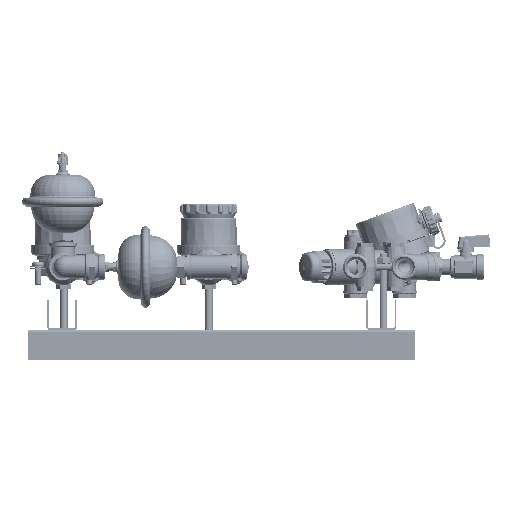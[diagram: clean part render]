
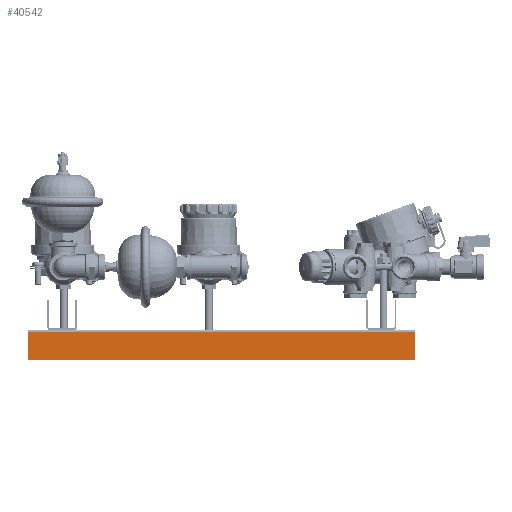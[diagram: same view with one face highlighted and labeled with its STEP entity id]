
A CAD part, front view. The second image highlights one B-rep face of the part: STEP entity #40542.
In plain terms, the highlighted planar face has unit normal (0, -1, 0) as drawn and (1, 0, 0) by its records, which use the part's own axes.
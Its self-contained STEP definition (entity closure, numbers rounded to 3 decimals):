
#40542=ADVANCED_FACE('',(#222634),#222636,.T.);
#222634=FACE_BOUND('',#222635,.T.);
#222635=EDGE_LOOP('',(#327218,#327219,#327220,#327221));
#222636=PLANE('',#222637);
#222637=AXIS2_PLACEMENT_3D('',#222638,#222639,#222640);
#222638=CARTESIAN_POINT('',(15.5,-400.,-2.5));
#222639=DIRECTION('',(1.,0.,0.));
#222640=DIRECTION('',(0.,0.,-1.));
#327218=ORIENTED_EDGE('',*,*,#380372,.T.);
#327219=ORIENTED_EDGE('',*,*,#380400,.T.);
#327220=ORIENTED_EDGE('',*,*,#380390,.F.);
#327221=ORIENTED_EDGE('',*,*,#380397,.F.);
#380372=EDGE_CURVE('',#448742,#448739,#448743,.T.);
#380390=EDGE_CURVE('',#448771,#448773,#448774,.T.);
#380397=EDGE_CURVE('',#448742,#448771,#448781,.T.);
#380400=EDGE_CURVE('',#448739,#448773,#448784,.T.);
#448739=VERTEX_POINT('',#749150);
#448742=VERTEX_POINT('',#749155);
#448743=LINE('',#749156,#749157);
#448771=VERTEX_POINT('',#749225);
#448773=VERTEX_POINT('',#749230);
#448774=LINE('',#749231,#749232);
#448781=LINE('',#749252,#749253);
#448784=LINE('',#749261,#749262);
#749150=CARTESIAN_POINT('',(15.5,-400.,-31.2));
#749155=CARTESIAN_POINT('',(15.5,-400.,-2.5));
#749156=CARTESIAN_POINT('',(15.5,-400.,-2.5));
#749157=VECTOR('',#749158,1.);
#749158=DIRECTION('',(0.,0.,-1.));
#749225=CARTESIAN_POINT('',(15.5,0.,-2.5));
#749230=CARTESIAN_POINT('',(15.5,0.,-31.2));
#749231=CARTESIAN_POINT('',(15.5,0.,-2.5));
#749232=VECTOR('',#749233,1.);
#749233=DIRECTION('',(0.,0.,-1.));
#749252=CARTESIAN_POINT('',(15.5,-400.,-2.5));
#749253=VECTOR('',#749254,1.);
#749254=DIRECTION('',(0.,1.,0.));
#749261=CARTESIAN_POINT('',(15.5,-400.,-31.2));
#749262=VECTOR('',#749263,1.);
#749263=DIRECTION('',(0.,1.,0.));
